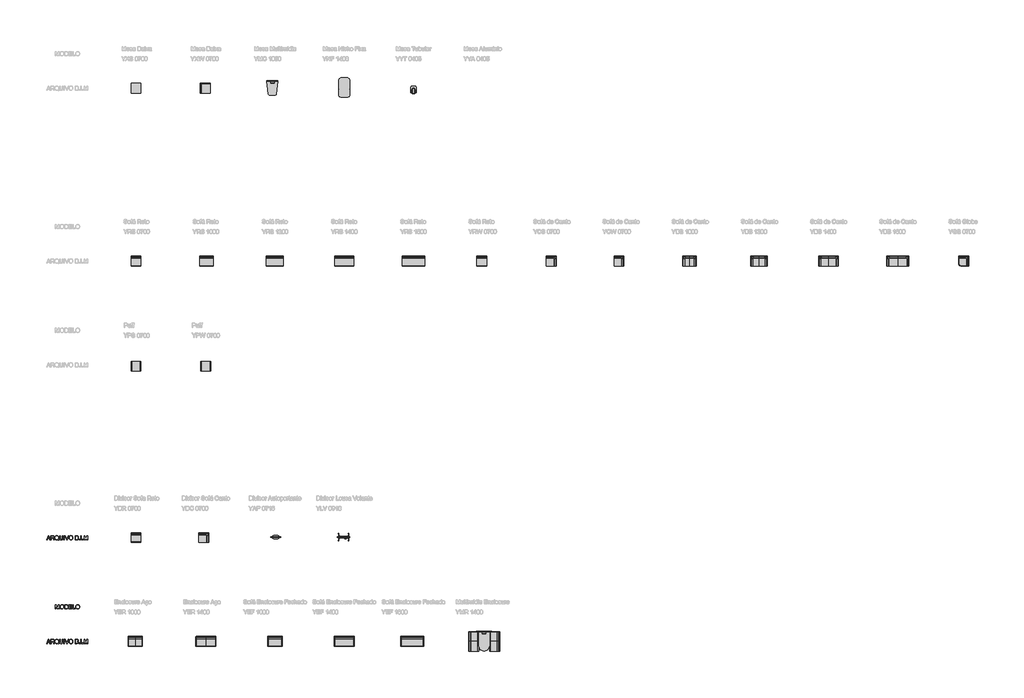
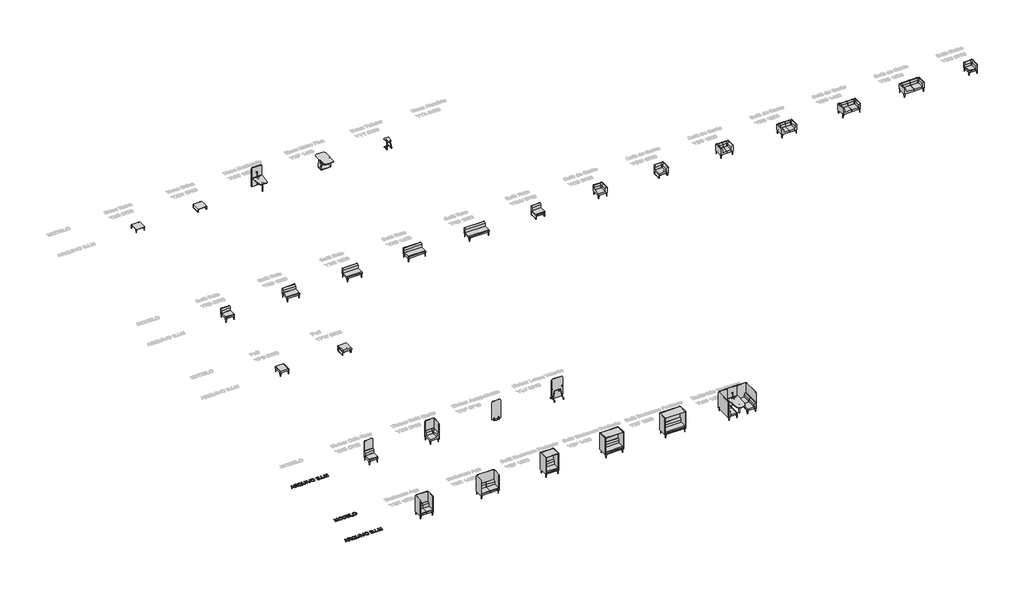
# One storey, part 1 of 26: 30 furniture elements, 3 proxies.
"""IFC4 building model written with IfcOpenShell, lengths in millimetres."""

from ifc_helpers import new_model, si_unit, origin, origin_with_axes, place, context, project, spatial, polyline, outline, extrude, transform, mapped, element, save
from components import furniture_fa825803, yap_0716_2c363669, ybs_1000_178b8325, ybs_1200_3b72d0d0, ybs_1400_8f39f51c, ybs_1600_b81034bc, ycs_0700_0be64c8a, ycw_0700_7a8f78d2, ydc_0700_d36201fb, ydr_0700_7234054d, yef_1000_8515219d, yef_1400_2cbca0d0, yef_1600_15b0d586, yer_1000_36a1c1a7, yer_1400_89e6360d, ygs_0700_92577f61, ylv_0918_f138dd49, ymr_1400_ceb6d955, ymr_1400_8e240abd, ynf_1408_52790276, yps_0700_d034030b, ypw_0700_b0204cda, yrs_0700_28fca33c, yrs_1000_8e3fc700, yrs_1200_bf4bd0c3, yrs_1400_05e61edc, yrs_1600_2b5b6c77, yrw_0700_b2f553f3, yxs_0700_424be534, yxw_0700_d7e07470, yyt_0405_1cd9c240

model = new_model("IFC4")

# Units and contexts
model_context = context("Model", 3, world=origin())
ifc_project = project(units=[si_unit("LENGTHUNIT", "METRE", prefix="MILLI")], contexts=[model_context])

# Site, building, storey
site = spatial("IfcSite", under=ifc_project)
building = spatial("IfcBuilding", under=site)
storey = spatial("IfcBuildingStorey", under=building, Name="Marelli - Linha YOUNG - Planta Baixa", Elevation=0.0)

# Proxies
placement = place(None, origin())
element("IfcBuildingElementProxy", 1, Name="300mm Arial", ObjectType="300mm Arial", at=placement, inside=storey, context=model_context, shape_type="SweptSolid", body=[
    extrude(outline(polyline([(-20609.419598, -22780.5663201), (-20489.1221856, -22479.1973896), (-20457.0428756, -22479.1973896), (-20336.7454632, -22780.5663201), (-20376.550295, -22780.5663201), (-20411.0576262, -22686.3885293), (-20535.1810114, -22686.3885293), (-20569.6147661, -22780.5663201), (-20609.419598, -22780.5663201)]), holes=[polyline([(-20521.3486483, -22648.717413), (-20424.8164128, -22648.717413), (-20451.9661041, -22574.6259792), (-20473.0825306, -22516.8685059), (-20491.8445123, -22568.1512561), (-20521.3486483, -22648.717413)])]), origin_with_axes(), (0.0, 0.0, 1.0), 10.0),
    extrude(outline(polyline([(-20296.4991729, -22780.5663201), (-20296.4991729, -22479.1973896), (-20166.6368286, -22479.1973896), (-20131.7340243, -22481.2299376), (-20106.3409696, -22487.3275817), (-20087.7813229, -22498.5847708), (-20073.3787428, -22516.0959537), (-20064.1357077, -22537.8101885), (-20061.054696, -22561.6765329), (-20066.1590587, -22591.3646099), (-20081.4721467, -22615.9759154), (-20093.0719259, -22626.0052983), (-20107.4538126, -22634.0205273), (-20144.5639089, -22644.0085235), (-20123.1531768, -22660.1217548), (-20092.6189712, -22698.8965171), (-20042.3662906, -22780.5663201), (-20086.144248, -22780.5663201), (-20125.3604687, -22718.0999573), (-20153.6873824, -22676.750021), (-20173.5897983, -22657.2154871), (-20191.5056515, -22650.0417882), (-20213.357842, -22648.717413), (-20258.8280566, -22648.717413), (-20258.8280566, -22780.5663201), (-20296.4991729, -22780.5663201)]), holes=[polyline([(-20258.8280566, -22611.0462967), (-20174.5095033, -22611.0462967), (-20150.293671, -22609.7127245), (-20131.5040981, -22605.7120078), (-20117.3590353, -22598.7774322), (-20107.0767336, -22588.6422832), (-20100.8135426, -22576.3826157), (-20098.7258123, -22563.0744845), (-20102.7081349, -22544.6987789), (-20114.6551027, -22529.8915286), (-20135.2105092, -22520.1242616), (-20165.0181478, -22516.8685059), (-20258.8280566, -22516.8685059), (-20258.8280566, -22611.0462967)])]), origin_with_axes(), (0.0, 0.0, 1.0), 10.0),
    extrude(outline(polyline([(-19768.7356626, -22744.4403081), (-19744.4002686, -22763.036743), (-19722.0146492, -22775.8574305), (-19732.1681923, -22803.4485802), (-19763.2358268, -22789.0460001), (-19794.1930967, -22768.205485), (-19829.0499157, -22781.0077785), (-19867.4016137, -22785.2752096), (-19905.9372527, -22780.3547879), (-19940.7572836, -22765.5935229), (-19969.9211287, -22741.9203165), (-19991.4882107, -22710.2640708), (-20004.814736, -22672.3630282), (-20009.2569111, -22629.9554312), (-20004.823933, -22587.511046), (-19991.5249989, -22549.0581805), (-19970.0406904, -22516.9512794), (-19941.0515892, -22493.5447874), (-19906.360317, -22479.2525719), (-19867.7694957, -22474.4885001), (-19828.8751718, -22479.3629365), (-19794.0091557, -22493.9862458), (-19765.0660397, -22517.3835407), (-19743.9404161, -22548.5799339), (-19731.0277581, -22585.9199564), (-19726.7235388, -22627.7481393), (-19729.3355009, -22662.5313819), (-19737.1713874, -22693.5990164), (-19750.2863806, -22720.9142546), (-19768.7356626, -22744.4403081)]), holes=[polyline([(-19857.0273415, -22694.3347804), (-19825.3527017, -22706.3093393), (-19799.784903, -22722.9559996), (-19784.3016695, -22705.4816049), (-19773.2422171, -22684.1076609), (-19766.6065456, -22658.8341679), (-19764.3946551, -22629.6611256), (-19767.521652, -22596.5057608), (-19776.9026429, -22567.8201623), (-19792.3077015, -22544.3308969), (-19813.5069014, -22526.7645316), (-19839.065503, -22515.8108452), (-19867.5487665, -22512.1596164), (-19889.033075, -22514.0059242), (-19908.6043972, -22519.5448474), (-19926.2627329, -22528.7763863), (-19942.0080823, -22541.7005406), (-19954.9483315, -22558.2897193), (-19964.1913666, -22578.5163313), (-19969.7371877, -22602.3803764), (-19971.5857948, -22629.8818548), (-19969.7578811, -22656.6659634), (-19964.2741401, -22680.1437324), (-19955.1345718, -22700.3151621), (-19942.3391761, -22717.1802523), (-19926.7018921, -22730.4906827), (-19909.0366585, -22739.998133), (-19889.3434755, -22745.7026032), (-19867.6223429, -22747.6040933), (-19846.7082515, -22745.6727128), (-19827.081747, -22739.8785714), (-19846.3771577, -22729.853787), (-19866.7394261, -22723.1767288), (-19857.0273415, -22694.3347804)])]), origin_with_axes(), (0.0, 0.0, 1.0), 10.0),
    extrude(outline(polyline([(-19472.4435037, -22479.1973896), (-19434.7723874, -22479.1973896), (-19434.7723874, -22653.0584205), (-19437.3291673, -22693.7737604), (-19444.9995069, -22725.1265034), (-19459.3285106, -22749.3147446), (-19481.8612828, -22768.5365788), (-19512.6530058, -22781.0905519), (-19551.7588619, -22785.2752096), (-19590.0093923, -22781.6331779), (-19620.5895832, -22770.7070826), (-19643.5086315, -22752.8740029), (-19658.7757343, -22728.5110178), (-19667.3565818, -22695.8338995), (-19670.2168643, -22653.0584205), (-19670.2168643, -22479.1973896), (-19632.545748, -22479.1973896), (-19632.545748, -22651.7340454), (-19630.6879439, -22685.588386), (-19625.1145317, -22709.1604248), (-19615.0161709, -22725.4851883), (-19599.5835212, -22737.597703), (-19579.4603761, -22745.1024957), (-19555.290529, -22747.6040933), (-19516.9756192, -22742.6560805), (-19502.6328199, -22736.4710644), (-19491.499791, -22727.812042), (-19483.1626653, -22715.6351479), (-19477.2075755, -22698.8965171), (-19472.4435037, -22651.7340454), (-19472.4435037, -22479.1973896)])), origin_with_axes(), (0.0, 0.0, 1.0), 10.0),
    extrude(outline(polyline([(-19364.1390443, -22780.5663201), (-19364.1390443, -22479.1973896), (-19326.467928, -22479.1973896), (-19326.467928, -22780.5663201), (-19364.1390443, -22780.5663201)])), origin_with_axes(), (0.0, 0.0, 1.0), 10.0),
    extrude(outline(polyline([(-19162.0982526, -22780.5663201), (-19282.027783, -22479.1973896), (-19241.7079163, -22479.1973896), (-19161.436065, -22696.3213432), (-19145.1756808, -22745.2496485), (-19129.1360258, -22696.3213432), (-19048.6434453, -22479.1973896), (-19008.3235786, -22479.1973896), (-19123.1763375, -22780.5663201), (-19162.0982526, -22780.5663201)])), origin_with_axes(), (0.0, 0.0, 1.0), 10.0),
    extrude(outline(polyline([(-18987.4278813, -22633.8549804), (-18984.9170866, -22598.5061192), (-18977.3847028, -22567.213157), (-18964.8307297, -22539.9760937), (-18947.2551674, -22516.7949295), (-18925.711078, -22498.2858666), (-18901.2515239, -22485.0651074), (-18873.8765049, -22477.1326519), (-18843.5860211, -22474.4885001), (-18804.0571008, -22479.454907), (-18768.6116705, -22494.3541278), (-18739.1811109, -22518.1376988), (-18717.6968024, -22549.7571563), (-18704.5634152, -22587.68579), (-18700.1856194, -22630.3968896), (-18704.7933414, -22673.6782064), (-18718.6165074, -22712.140269), (-18740.8917622, -22743.8149087), (-18770.8557507, -22766.733957), (-18805.9976783, -22780.6398965), (-18843.8067503, -22785.2752096), (-18883.942676, -22780.1524528), (-18919.5904413, -22764.7841825), (-18948.9474246, -22740.5591531), (-18970.2110039, -22708.8661192), (-18983.1236619, -22672.3998164), (-18987.4278813, -22633.8549804)]), holes=[polyline([(-18949.7567649, -22634.2228624), (-18947.873669, -22659.1974513), (-18942.2243811, -22681.3669401), (-18932.8089013, -22700.7313286), (-18919.6272295, -22717.2906169), (-18903.6036694, -22730.5527628), (-18885.6625243, -22740.0257242), (-18865.8037944, -22745.709501), (-18844.0274795, -22747.6040933), (-18821.8786842, -22745.6911069), (-18801.7854294, -22739.9521478), (-18783.7477154, -22730.3872159), (-18767.7655419, -22716.9963113), (-18754.6804392, -22700.0875351), (-18745.3339373, -22679.9689885), (-18739.7260361, -22656.6406715), (-18737.8567357, -22630.102584), (-18741.0573091, -22596.7540812), (-18750.6590292, -22567.9305269), (-18766.4135756, -22544.358488), (-18788.0726281, -22526.7645316), (-18814.2014468, -22515.8108452), (-18843.3652919, -22512.1596164), (-18864.3851494, -22513.9185522), (-18883.8874937, -22519.1953595), (-18901.8723248, -22527.9900385), (-18918.3396426, -22540.302589), (-18932.0846336, -22556.7262208), (-18941.9024844, -22577.8541437), (-18947.7931948, -22603.6863575), (-18949.7567649, -22634.2228624)])]), origin_with_axes(), (0.0, 0.0, 1.0), 10.0),
    extrude(outline(polyline([(-18530.665596, -22780.5663201), (-18530.665596, -22479.1973896), (-18415.6656844, -22479.1973896), (-18384.0370298, -22481.4138786), (-18359.3429509, -22488.0633457), (-18340.4154222, -22499.3113377), (-18326.0864185, -22515.3234015), (-18317.0641126, -22534.1589597), (-18314.0566773, -22553.8774346), (-18316.585866, -22572.0232141), (-18324.1734321, -22589.0837416), (-18336.874558, -22604.0105535), (-18354.7444259, -22615.7551862), (-18333.3980732, -22626.9020107), (-18317.6251326, -22643.8613707), (-18307.8854568, -22665.5112261), (-18304.6388982, -22690.7295368), (-18306.8553872, -22711.7447958), (-18313.5048543, -22731.2333445), (-18323.4284711, -22747.8064284), (-18335.4674094, -22760.0752929), (-18350.2102804, -22768.9596431), (-18368.2456952, -22775.3791839), (-18416.5486011, -22780.5663201), (-18530.665596, -22780.5663201)]), holes=[polyline([(-18492.9944797, -22601.6285176), (-18424.2005466, -22601.6285176), (-18384.0278328, -22598.3911561), (-18369.9655435, -22592.8085468), (-18359.8579857, -22584.4484284), (-18353.7603416, -22573.4395597), (-18351.7277936, -22559.9106994), (-18353.6223859, -22546.7773121), (-18359.3061627, -22535.3361821), (-18368.5216067, -22526.4058467), (-18381.0112004, -22520.8048433), (-18429.424471, -22516.8685059), (-18492.9944797, -22516.8685059), (-18492.9944797, -22601.6285176)]), polyline([(-18492.9944797, -22742.8952038), (-18415.7392607, -22742.8952038), (-18387.7802291, -22741.4236758), (-18364.1254168, -22733.2199073), (-18348.4536438, -22716.4812765), (-18343.8459218, -22704.6538704), (-18342.3100145, -22691.0974188), (-18344.1126363, -22675.3520694), (-18349.5205016, -22661.814012), (-18358.9658718, -22651.2282076), (-18372.8810083, -22644.3396173), (-18392.5902862, -22640.5596298), (-18419.4180807, -22639.2996339), (-18492.9944797, -22639.2996339), (-18492.9944797, -22742.8952038)])]), origin_with_axes(), (0.0, 0.0, 1.0), 10.0),
    extrude(outline(polyline([(-18248.1322237, -22780.5663201), (-18248.1322237, -22742.8952038), (-18210.4611074, -22742.8952038), (-18210.4611074, -22780.5663201), (-18248.1322237, -22780.5663201)])), origin_with_axes(), (0.0, 0.0, 1.0), 10.0),
    extrude(outline(polyline([(-18130.4099853, -22780.5663201), (-18130.4099853, -22479.1973896), (-18092.738869, -22479.1973896), (-18092.738869, -22780.5663201), (-18130.4099853, -22780.5663201)])), origin_with_axes(), (0.0, 0.0, 1.0), 10.0),
    extrude(outline(polyline([(-18012.6877468, -22780.5663201), (-18012.6877468, -22742.8952038), (-17975.0166305, -22742.8952038), (-17975.0166305, -22780.5663201), (-18012.6877468, -22780.5663201)])), origin_with_axes(), (0.0, 0.0, 1.0), 10.0),
    extrude(outline(polyline([(-17899.6743979, -22780.5663201), (-17899.6743979, -22479.1973896), (-17834.8535904, -22479.1973896), (-17773.196568, -22691.6124536), (-17760.7621565, -22735.9790223), (-17747.2976755, -22687.9336337), (-17686.6707227, -22479.1973896), (-17621.8499152, -22479.1973896), (-17621.8499152, -22780.5663201), (-17659.5210315, -22780.5663201), (-17659.5210315, -22516.8685059), (-17735.2311461, -22780.5663201), (-17786.293167, -22780.5663201), (-17862.0032816, -22516.8685059), (-17862.0032816, -22780.5663201), (-17899.6743979, -22780.5663201)])), origin_with_axes(), (0.0, 0.0, 1.0), 10.0),
])
element("IfcBuildingElementProxy", 2, Name="300mm Arial", ObjectType="300mm Arial", at=placement, inside=storey, context=model_context, shape_type="SweptSolid", body=[
    extrude(outline(polyline([(-20609.419598, -30280.5663201), (-20489.1221856, -29979.1973896), (-20457.0428756, -29979.1973896), (-20336.7454632, -30280.5663201), (-20376.550295, -30280.5663201), (-20411.0576262, -30186.3885293), (-20535.1810114, -30186.3885293), (-20569.6147661, -30280.5663201), (-20609.419598, -30280.5663201)]), holes=[polyline([(-20521.3486483, -30148.717413), (-20424.8164128, -30148.717413), (-20451.9661041, -30074.6259792), (-20473.0825306, -30016.8685059), (-20491.8445123, -30068.1512561), (-20521.3486483, -30148.717413)])]), origin_with_axes(), (0.0, 0.0, 1.0), 10.0),
    extrude(outline(polyline([(-20296.4991729, -30280.5663201), (-20296.4991729, -29979.1973896), (-20166.6368286, -29979.1973896), (-20131.7340243, -29981.2299376), (-20106.3409696, -29987.3275817), (-20087.7813229, -29998.5847708), (-20073.3787428, -30016.0959537), (-20064.1357077, -30037.8101885), (-20061.054696, -30061.6765329), (-20066.1590587, -30091.3646099), (-20081.4721467, -30115.9759154), (-20093.0719259, -30126.0052983), (-20107.4538126, -30134.0205273), (-20144.5639089, -30144.0085235), (-20123.1531768, -30160.1217548), (-20092.6189712, -30198.8965171), (-20042.3662906, -30280.5663201), (-20086.144248, -30280.5663201), (-20125.3604687, -30218.0999573), (-20153.6873824, -30176.750021), (-20173.5897983, -30157.2154871), (-20191.5056515, -30150.0417882), (-20213.357842, -30148.717413), (-20258.8280566, -30148.717413), (-20258.8280566, -30280.5663201), (-20296.4991729, -30280.5663201)]), holes=[polyline([(-20258.8280566, -30111.0462967), (-20174.5095033, -30111.0462967), (-20150.293671, -30109.7127245), (-20131.5040981, -30105.7120078), (-20117.3590353, -30098.7774322), (-20107.0767336, -30088.6422832), (-20100.8135426, -30076.3826157), (-20098.7258123, -30063.0744845), (-20102.7081349, -30044.6987789), (-20114.6551027, -30029.8915286), (-20135.2105092, -30020.1242616), (-20165.0181478, -30016.8685059), (-20258.8280566, -30016.8685059), (-20258.8280566, -30111.0462967)])]), origin_with_axes(), (0.0, 0.0, 1.0), 10.0),
    extrude(outline(polyline([(-19768.7356626, -30244.4403081), (-19744.4002686, -30263.036743), (-19722.0146492, -30275.8574305), (-19732.1681923, -30303.4485802), (-19763.2358268, -30289.0460001), (-19794.1930967, -30268.205485), (-19829.0499157, -30281.0077785), (-19867.4016137, -30285.2752096), (-19905.9372527, -30280.3547879), (-19940.7572836, -30265.5935229), (-19969.9211287, -30241.9203165), (-19991.4882107, -30210.2640708), (-20004.814736, -30172.3630282), (-20009.2569111, -30129.9554312), (-20004.823933, -30087.511046), (-19991.5249989, -30049.0581805), (-19970.0406904, -30016.9512794), (-19941.0515892, -29993.5447874), (-19906.360317, -29979.2525719), (-19867.7694957, -29974.4885001), (-19828.8751718, -29979.3629365), (-19794.0091557, -29993.9862458), (-19765.0660397, -30017.3835407), (-19743.9404161, -30048.5799339), (-19731.0277581, -30085.9199564), (-19726.7235388, -30127.7481393), (-19729.3355009, -30162.5313819), (-19737.1713874, -30193.5990164), (-19750.2863806, -30220.9142546), (-19768.7356626, -30244.4403081)]), holes=[polyline([(-19857.0273415, -30194.3347804), (-19825.3527017, -30206.3093393), (-19799.784903, -30222.9559996), (-19784.3016695, -30205.4816049), (-19773.2422171, -30184.1076609), (-19766.6065456, -30158.8341679), (-19764.3946551, -30129.6611256), (-19767.521652, -30096.5057608), (-19776.9026429, -30067.8201623), (-19792.3077015, -30044.3308969), (-19813.5069014, -30026.7645316), (-19839.065503, -30015.8108452), (-19867.5487665, -30012.1596164), (-19889.033075, -30014.0059242), (-19908.6043972, -30019.5448474), (-19926.2627329, -30028.7763863), (-19942.0080823, -30041.7005406), (-19954.9483315, -30058.2897193), (-19964.1913666, -30078.5163313), (-19969.7371877, -30102.3803764), (-19971.5857948, -30129.8818548), (-19969.7578811, -30156.6659634), (-19964.2741401, -30180.1437324), (-19955.1345718, -30200.3151621), (-19942.3391761, -30217.1802523), (-19926.7018921, -30230.4906827), (-19909.0366585, -30239.998133), (-19889.3434755, -30245.7026032), (-19867.6223429, -30247.6040933), (-19846.7082515, -30245.6727128), (-19827.081747, -30239.8785714), (-19846.3771577, -30229.853787), (-19866.7394261, -30223.1767288), (-19857.0273415, -30194.3347804)])]), origin_with_axes(), (0.0, 0.0, 1.0), 10.0),
    extrude(outline(polyline([(-19472.4435037, -29979.1973896), (-19434.7723874, -29979.1973896), (-19434.7723874, -30153.0584205), (-19437.3291673, -30193.7737604), (-19444.9995069, -30225.1265034), (-19459.3285106, -30249.3147446), (-19481.8612828, -30268.5365788), (-19512.6530058, -30281.0905519), (-19551.7588619, -30285.2752096), (-19590.0093923, -30281.6331779), (-19620.5895832, -30270.7070826), (-19643.5086315, -30252.8740029), (-19658.7757343, -30228.5110178), (-19667.3565818, -30195.8338995), (-19670.2168643, -30153.0584205), (-19670.2168643, -29979.1973896), (-19632.545748, -29979.1973896), (-19632.545748, -30151.7340454), (-19630.6879439, -30185.588386), (-19625.1145317, -30209.1604248), (-19615.0161709, -30225.4851883), (-19599.5835212, -30237.597703), (-19579.4603761, -30245.1024957), (-19555.290529, -30247.6040933), (-19516.9756192, -30242.6560805), (-19502.6328199, -30236.4710644), (-19491.499791, -30227.812042), (-19483.1626653, -30215.6351479), (-19477.2075755, -30198.8965171), (-19472.4435037, -30151.7340454), (-19472.4435037, -29979.1973896)])), origin_with_axes(), (0.0, 0.0, 1.0), 10.0),
    extrude(outline(polyline([(-19364.1390443, -30280.5663201), (-19364.1390443, -29979.1973896), (-19326.467928, -29979.1973896), (-19326.467928, -30280.5663201), (-19364.1390443, -30280.5663201)])), origin_with_axes(), (0.0, 0.0, 1.0), 10.0),
    extrude(outline(polyline([(-19162.0982526, -30280.5663201), (-19282.027783, -29979.1973896), (-19241.7079163, -29979.1973896), (-19161.436065, -30196.3213432), (-19145.1756808, -30245.2496485), (-19129.1360258, -30196.3213432), (-19048.6434453, -29979.1973896), (-19008.3235786, -29979.1973896), (-19123.1763375, -30280.5663201), (-19162.0982526, -30280.5663201)])), origin_with_axes(), (0.0, 0.0, 1.0), 10.0),
    extrude(outline(polyline([(-18987.4278813, -30133.8549804), (-18984.9170866, -30098.5061192), (-18977.3847028, -30067.213157), (-18964.8307297, -30039.9760937), (-18947.2551674, -30016.7949295), (-18925.711078, -29998.2858666), (-18901.2515239, -29985.0651074), (-18873.8765049, -29977.1326519), (-18843.5860211, -29974.4885001), (-18804.0571008, -29979.454907), (-18768.6116705, -29994.3541278), (-18739.1811109, -30018.1376988), (-18717.6968024, -30049.7571563), (-18704.5634152, -30087.68579), (-18700.1856194, -30130.3968896), (-18704.7933414, -30173.6782064), (-18718.6165074, -30212.140269), (-18740.8917622, -30243.8149087), (-18770.8557507, -30266.733957), (-18805.9976783, -30280.6398965), (-18843.8067503, -30285.2752096), (-18883.942676, -30280.1524528), (-18919.5904413, -30264.7841825), (-18948.9474246, -30240.5591531), (-18970.2110039, -30208.8661192), (-18983.1236619, -30172.3998164), (-18987.4278813, -30133.8549804)]), holes=[polyline([(-18949.7567649, -30134.2228624), (-18947.873669, -30159.1974513), (-18942.2243811, -30181.3669401), (-18932.8089013, -30200.7313286), (-18919.6272295, -30217.2906169), (-18903.6036694, -30230.5527628), (-18885.6625243, -30240.0257242), (-18865.8037944, -30245.709501), (-18844.0274795, -30247.6040933), (-18821.8786842, -30245.6911069), (-18801.7854294, -30239.9521478), (-18783.7477154, -30230.3872159), (-18767.7655419, -30216.9963113), (-18754.6804392, -30200.0875351), (-18745.3339373, -30179.9689885), (-18739.7260361, -30156.6406715), (-18737.8567357, -30130.102584), (-18741.0573091, -30096.7540812), (-18750.6590292, -30067.9305269), (-18766.4135756, -30044.358488), (-18788.0726281, -30026.7645316), (-18814.2014468, -30015.8108452), (-18843.3652919, -30012.1596164), (-18864.3851494, -30013.9185522), (-18883.8874937, -30019.1953595), (-18901.8723248, -30027.9900385), (-18918.3396426, -30040.302589), (-18932.0846336, -30056.7262208), (-18941.9024844, -30077.8541437), (-18947.7931948, -30103.6863575), (-18949.7567649, -30134.2228624)])]), origin_with_axes(), (0.0, 0.0, 1.0), 10.0),
    extrude(outline(polyline([(-18530.665596, -30280.5663201), (-18530.665596, -29979.1973896), (-18415.6656844, -29979.1973896), (-18384.0370298, -29981.4138786), (-18359.3429509, -29988.0633457), (-18340.4154222, -29999.3113377), (-18326.0864185, -30015.3234015), (-18317.0641126, -30034.1589597), (-18314.0566773, -30053.8774346), (-18316.585866, -30072.0232141), (-18324.1734321, -30089.0837416), (-18336.874558, -30104.0105535), (-18354.7444259, -30115.7551862), (-18333.3980732, -30126.9020107), (-18317.6251326, -30143.8613707), (-18307.8854568, -30165.5112261), (-18304.6388982, -30190.7295368), (-18306.8553872, -30211.7447958), (-18313.5048543, -30231.2333445), (-18323.4284711, -30247.8064284), (-18335.4674094, -30260.0752929), (-18350.2102804, -30268.9596431), (-18368.2456952, -30275.3791839), (-18416.5486011, -30280.5663201), (-18530.665596, -30280.5663201)]), holes=[polyline([(-18492.9944797, -30101.6285176), (-18424.2005466, -30101.6285176), (-18384.0278328, -30098.3911561), (-18369.9655435, -30092.8085468), (-18359.8579857, -30084.4484284), (-18353.7603416, -30073.4395597), (-18351.7277936, -30059.9106994), (-18353.6223859, -30046.7773121), (-18359.3061627, -30035.3361821), (-18368.5216067, -30026.4058467), (-18381.0112004, -30020.8048433), (-18429.424471, -30016.8685059), (-18492.9944797, -30016.8685059), (-18492.9944797, -30101.6285176)]), polyline([(-18492.9944797, -30242.8952038), (-18415.7392607, -30242.8952038), (-18387.7802291, -30241.4236758), (-18364.1254168, -30233.2199073), (-18348.4536438, -30216.4812765), (-18343.8459218, -30204.6538704), (-18342.3100145, -30191.0974188), (-18344.1126363, -30175.3520694), (-18349.5205016, -30161.814012), (-18358.9658718, -30151.2282076), (-18372.8810083, -30144.3396173), (-18392.5902862, -30140.5596298), (-18419.4180807, -30139.2996339), (-18492.9944797, -30139.2996339), (-18492.9944797, -30242.8952038)])]), origin_with_axes(), (0.0, 0.0, 1.0), 10.0),
    extrude(outline(polyline([(-18248.1322237, -30280.5663201), (-18248.1322237, -30242.8952038), (-18210.4611074, -30242.8952038), (-18210.4611074, -30280.5663201), (-18248.1322237, -30280.5663201)])), origin_with_axes(), (0.0, 0.0, 1.0), 10.0),
    extrude(outline(polyline([(-18130.4099853, -30280.5663201), (-18130.4099853, -29979.1973896), (-18092.738869, -29979.1973896), (-18092.738869, -30280.5663201), (-18130.4099853, -30280.5663201)])), origin_with_axes(), (0.0, 0.0, 1.0), 10.0),
    extrude(outline(polyline([(-18012.6877468, -30280.5663201), (-18012.6877468, -30242.8952038), (-17975.0166305, -30242.8952038), (-17975.0166305, -30280.5663201), (-18012.6877468, -30280.5663201)])), origin_with_axes(), (0.0, 0.0, 1.0), 10.0),
    extrude(outline(polyline([(-17899.6743979, -30280.5663201), (-17899.6743979, -29979.1973896), (-17834.8535904, -29979.1973896), (-17773.196568, -30191.6124536), (-17760.7621565, -30235.9790223), (-17747.2976755, -30187.9336337), (-17686.6707227, -29979.1973896), (-17621.8499152, -29979.1973896), (-17621.8499152, -30280.5663201), (-17659.5210315, -30280.5663201), (-17659.5210315, -30016.8685059), (-17735.2311461, -30280.5663201), (-17786.293167, -30280.5663201), (-17862.0032816, -30016.8685059), (-17862.0032816, -30280.5663201), (-17899.6743979, -30280.5663201)])), origin_with_axes(), (0.0, 0.0, 1.0), 10.0),
])
element("IfcBuildingElementProxy", 3, Name="300mm Arial", ObjectType="300mm Arial", at=placement, inside=storey, context=model_context, shape_type="SweptSolid", body=[
    extrude(outline(polyline([(-19966.8769052, -27780.5663201), (-19966.8769052, -27479.1973896), (-19902.0560977, -27479.1973896), (-19840.3990753, -27691.6124536), (-19827.9646638, -27735.9790223), (-19814.5001828, -27687.9336337), (-19753.87323, -27479.1973896), (-19689.0524225, -27479.1973896), (-19689.0524225, -27780.5663201), (-19726.7235388, -27780.5663201), (-19726.7235388, -27516.8685059), (-19802.4336534, -27780.5663201), (-19853.4956743, -27780.5663201), (-19929.2057889, -27516.8685059), (-19929.2057889, -27780.5663201), (-19966.8769052, -27780.5663201)])), origin_with_axes(), (0.0, 0.0, 1.0), 10.0),
    extrude(outline(polyline([(-19637.2546375, -27633.8549804), (-19634.7438429, -27598.5061192), (-19627.2114591, -27567.213157), (-19614.657486, -27539.9760937), (-19597.0819237, -27516.7949295), (-19575.5378343, -27498.2858666), (-19551.0782802, -27485.0651074), (-19523.7032612, -27477.1326519), (-19493.4127774, -27474.4885001), (-19453.883857, -27479.454907), (-19418.4384268, -27494.3541278), (-19389.0078672, -27518.1376988), (-19367.5235587, -27549.7571563), (-19354.3901714, -27587.68579), (-19350.0123757, -27630.3968896), (-19354.6200977, -27673.6782064), (-19368.4432637, -27712.140269), (-19390.7185185, -27743.8149087), (-19420.682507, -27766.733957), (-19455.8244346, -27780.6398965), (-19493.6335066, -27785.2752096), (-19533.7694323, -27780.1524528), (-19569.4171976, -27764.7841825), (-19598.7741808, -27740.5591531), (-19620.0377602, -27708.8661192), (-19632.9504182, -27672.3998164), (-19637.2546375, -27633.8549804)]), holes=[polyline([(-19599.5835212, -27634.2228624), (-19597.7004253, -27659.1974513), (-19592.0511374, -27681.3669401), (-19582.6356576, -27700.7313286), (-19569.4539858, -27717.2906169), (-19553.4304257, -27730.5527628), (-19535.4892806, -27740.0257242), (-19515.6305507, -27745.709501), (-19493.8542358, -27747.6040933), (-19471.7054404, -27745.6911069), (-19451.6121857, -27739.9521478), (-19433.5744716, -27730.3872159), (-19417.5922982, -27716.9963113), (-19404.5071955, -27700.0875351), (-19395.1606936, -27679.9689885), (-19389.5527924, -27656.6406715), (-19387.683492, -27630.102584), (-19390.8840654, -27596.7540812), (-19400.4857854, -27567.9305269), (-19416.2403319, -27544.358488), (-19437.8993843, -27526.7645316), (-19464.0282031, -27515.8108452), (-19493.1920482, -27512.1596164), (-19514.2119057, -27513.9185522), (-19533.71425, -27519.1953595), (-19551.699081, -27527.9900385), (-19568.1663988, -27540.302589), (-19581.9113899, -27556.7262208), (-19591.7292406, -27577.8541437), (-19597.6199511, -27603.6863575), (-19599.5835212, -27634.2228624)])]), origin_with_axes(), (0.0, 0.0, 1.0), 10.0),
    extrude(outline(polyline([(-19298.2145908, -27780.5663201), (-19298.2145908, -27479.1973896), (-19194.2511389, -27479.1973896), (-19140.4667912, -27483.5383972), (-19116.444097, -27491.9077126), (-19096.173799, -27505.0962821), (-19075.333284, -27528.0521186), (-19060.4892455, -27556.5997614), (-19051.6048953, -27590.1873876), (-19048.6434453, -27628.2631741), (-19050.6484021, -27660.6091985), (-19056.6632727, -27689.0740679), (-19065.8235344, -27713.3082943), (-19077.2646645, -27732.9623899), (-19090.4348399, -27748.477813), (-19104.7822377, -27760.2960221), (-19121.254154, -27769.0608107), (-19140.797885, -27775.4159721), (-19189.2479438, -27780.5663201), (-19298.2145908, -27780.5663201)]), holes=[polyline([(-19260.5434745, -27742.8952038), (-19193.8832569, -27742.8952038), (-19166.3105014, -27741.5340404), (-19145.39641, -27737.4505502), (-19129.6142724, -27730.8838566), (-19117.4373783, -27722.0730828), (-19104.3499764, -27705.7667134), (-19094.5183301, -27684.6594839), (-19088.3655037, -27658.6594239), (-19086.3145616, -27627.6745629), (-19090.3336724, -27586.6189322), (-19102.3910047, -27556.3054558), (-19120.2056904, -27535.4833349), (-19141.4968608, -27522.9017706), (-19163.1651104, -27518.3768221), (-19194.9133265, -27516.8685059), (-19260.5434745, -27516.8685059), (-19260.5434745, -27742.8952038)])]), origin_with_axes(), (0.0, 0.0, 1.0), 10.0),
    extrude(outline(polyline([(-18996.8456603, -27780.5663201), (-18996.8456603, -27479.1973896), (-18780.2367416, -27479.1973896), (-18780.2367416, -27516.8685059), (-18959.174544, -27516.8685059), (-18959.174544, -27606.3374072), (-18789.6545206, -27606.3374072), (-18789.6545206, -27644.0085235), (-18959.174544, -27644.0085235), (-18959.174544, -27742.8952038), (-18775.527852, -27742.8952038), (-18775.527852, -27780.5663201), (-18996.8456603, -27780.5663201)])), origin_with_axes(), (0.0, 0.0, 1.0), 10.0),
    extrude(outline(polyline([(-18719.0211776, -27780.5663201), (-18719.0211776, -27479.1973896), (-18681.3500613, -27479.1973896), (-18681.3500613, -27742.8952038), (-18530.665596, -27742.8952038), (-18530.665596, -27780.5663201), (-18719.0211776, -27780.5663201)])), origin_with_axes(), (0.0, 0.0, 1.0), 10.0),
    extrude(outline(polyline([(-18502.4122588, -27633.8549804), (-18499.9014642, -27598.5061192), (-18492.3690803, -27567.213157), (-18479.8151073, -27539.9760937), (-18462.2395449, -27516.7949295), (-18440.6954556, -27498.2858666), (-18416.2359014, -27485.0651074), (-18388.8608825, -27477.1326519), (-18358.5703987, -27474.4885001), (-18319.0414783, -27479.454907), (-18283.5960481, -27494.3541278), (-18254.1654885, -27518.1376988), (-18232.6811799, -27549.7571563), (-18219.5477927, -27587.68579), (-18215.169997, -27630.3968896), (-18219.777719, -27673.6782064), (-18233.6008849, -27712.140269), (-18255.8761397, -27743.8149087), (-18285.8401283, -27766.733957), (-18320.9820558, -27780.6398965), (-18358.7911279, -27785.2752096), (-18398.9270536, -27780.1524528), (-18434.5748189, -27764.7841825), (-18463.9318021, -27740.5591531), (-18485.1953814, -27708.8661192), (-18498.1080395, -27672.3998164), (-18502.4122588, -27633.8549804)]), holes=[polyline([(-18464.7411425, -27634.2228624), (-18462.8580465, -27659.1974513), (-18457.2087587, -27681.3669401), (-18447.7932788, -27700.7313286), (-18434.6116071, -27717.2906169), (-18418.5880469, -27730.5527628), (-18400.6469019, -27740.0257242), (-18380.7881719, -27745.709501), (-18359.0118571, -27747.6040933), (-18336.8630617, -27745.6911069), (-18316.769807, -27739.9521478), (-18298.7320929, -27730.3872159), (-18282.7499195, -27716.9963113), (-18269.6648168, -27700.0875351), (-18260.3183148, -27679.9689885), (-18254.7104137, -27656.6406715), (-18252.8411133, -27630.102584), (-18256.0416866, -27596.7540812), (-18265.6434067, -27567.9305269), (-18281.3979532, -27544.358488), (-18303.0570056, -27526.7645316), (-18329.1858243, -27515.8108452), (-18358.3496695, -27512.1596164), (-18379.369527, -27513.9185522), (-18398.8718713, -27519.1953595), (-18416.8567023, -27527.9900385), (-18433.3240201, -27540.302589), (-18447.0690112, -27556.7262208), (-18456.8868619, -27577.8541437), (-18462.7775724, -27603.6863575), (-18464.7411425, -27634.2228624)])]), origin_with_axes(), (0.0, 0.0, 1.0), 10.0),
])

# Furniture
furniture_shape = furniture_fa825803(model_context)
element("IfcFurniture", 4, ObjectType="Mobiliário_Mobiliário de Escritório_LinhaYoung_Mesa Multimídia Tampo e Painel para Cabine - YMC_Marelli : Mobiliário_Mobiliário de Escritório_LinhaYoung_Mesa Multimídia Tampo e Painel para Cabine - YMC_Marelli", at=placement, inside=storey, context=model_context, shape_type="MappedRepresentation", body=[
    mapped(furniture_shape, transform((-4698.0867854, 10419.4336799, 0.0), x_axis=(1.0, 0.0, 0.0), y_axis=(0.0, 1.0, 0.0), z_axis=(0.0, 0.0, 1.0))),
])
yap_0716_shape = yap_0716_2c363669(model_context)
element("IfcFurniture", 5, ObjectType="Mobiliário_Mobiliário de Escritório_LinhaYoung_Divisor Autoportante - YAP 0716_Marelli : YAP 0716", at=placement, inside=storey, context=model_context, shape_type="MappedRepresentation", body=[
    mapped(yap_0716_shape, transform((-4398.0867854, -22580.5663201, 0.0), x_axis=(1.0, 0.0, 0.0), y_axis=(0.0, 1.0, 0.0), z_axis=(0.0, 0.0, 1.0))),
])
ybs_1000_shape = ybs_1000_178b8325(model_context)
element("IfcFurniture", 6, ObjectType="Mobiliário_Mobiliário de Escritório_LinhaYoung_Sofa Braço (Aço) - YB_Marelli : YBS 1000", at=placement, inside=storey, context=model_context, shape_type="MappedRepresentation", body=[
    mapped(ybs_1000_shape, transform((25341.9132146, -2980.5663201, 0.0), x_axis=(1.0, 0.0, 0.0), y_axis=(0.0, 1.0, 0.0), z_axis=(0.0, 0.0, 1.0))),
])
ybs_1200_shape = ybs_1200_3b72d0d0(model_context)
element("IfcFurniture", 7, ObjectType="Mobiliário_Mobiliário de Escritório_LinhaYoung_Sofa Braço (Aço) - YB_Marelli : YBS 1200", at=placement, inside=storey, context=model_context, shape_type="MappedRepresentation", body=[
    mapped(ybs_1200_shape, transform((30261.9132146, -2980.5663201, 0.0), x_axis=(1.0, 0.0, 0.0), y_axis=(0.0, 1.0, 0.0), z_axis=(0.0, 0.0, 1.0))),
])
ybs_1400_shape = ybs_1400_8f39f51c(model_context)
element("IfcFurniture", 8, ObjectType="Mobiliário_Mobiliário de Escritório_LinhaYoung_Sofa Braço (Aço) - YB_Marelli : YBS 1400", at=placement, inside=storey, context=model_context, shape_type="MappedRepresentation", body=[
    mapped(ybs_1400_shape, transform((35181.9132146, -2980.5663201, 0.0), x_axis=(1.0, 0.0, 0.0), y_axis=(0.0, 1.0, 0.0), z_axis=(0.0, 0.0, 1.0))),
])
ybs_1600_shape = ybs_1600_b81034bc(model_context)
element("IfcFurniture", 9, ObjectType="Mobiliário_Mobiliário de Escritório_LinhaYoung_Sofa Braço (Aço) - YB_Marelli : YBS 1600", at=placement, inside=storey, context=model_context, shape_type="MappedRepresentation", body=[
    mapped(ybs_1600_shape, transform((40101.9132146, -2980.5663201, 0.0), x_axis=(1.0, 0.0, 0.0), y_axis=(0.0, 1.0, 0.0), z_axis=(0.0, 0.0, 1.0))),
])
ycs_0700_shape = ycs_0700_0be64c8a(model_context)
element("IfcFurniture", 10, ObjectType="Mobiliário_Mobiliário de Escritório_LinhaYoung_Sofa Canto (Aço) - YCS_Marelli : YCS 0700", at=placement, inside=storey, context=model_context, shape_type="MappedRepresentation", body=[
    mapped(ycs_0700_shape, transform((15501.9132146, -2980.5663201, 0.0), x_axis=(1.0, 0.0, 0.0), y_axis=(0.0, 1.0, 0.0), z_axis=(0.0, 0.0, 1.0))),
])
ycw_0700_shape = ycw_0700_7a8f78d2(model_context)
element("IfcFurniture", 11, ObjectType="Mobiliário_Mobiliário de Escritório_LinhaYoung_Sofa Canto (Aramado) - YCW_Marelli : YCW 0700", at=placement, inside=storey, context=model_context, shape_type="MappedRepresentation", body=[
    mapped(ycw_0700_shape, transform((20401.9132146, -2980.5663201, 0.0), x_axis=(1.0, 0.0, 0.0), y_axis=(0.0, 1.0, 0.0), z_axis=(0.0, 0.0, 1.0))),
])
ydc_0700_shape = ydc_0700_d36201fb(model_context)
element("IfcFurniture", 12, ObjectType="Mobiliário_Mobiliário de Escritório_LinhaYoung_Divisor Sofa Canto (Aço) - YDC_Marelli : YDC 0700", at=placement, inside=storey, context=model_context, shape_type="MappedRepresentation", body=[
    mapped(ydc_0700_shape, transform((-9598.0867854, -22980.5663201, 0.0), x_axis=(1.0, 0.0, 0.0), y_axis=(0.0, 1.0, 0.0), z_axis=(0.0, 0.0, 1.0))),
])
ydr_0700_shape = ydr_0700_7234054d(model_context)
element("IfcFurniture", 13, ObjectType="Mobiliário_Mobiliário de Escritório_LinhaYoung_Divisor Sofa Reto (Aço) - YDR_Marelli : YDR 0700", at=placement, inside=storey, context=model_context, shape_type="MappedRepresentation", body=[
    mapped(ydr_0700_shape, transform((-14498.0867854, -22980.5663201, 0.0), x_axis=(1.0, 0.0, 0.0), y_axis=(0.0, 1.0, 0.0), z_axis=(0.0, 0.0, 1.0))),
])
yef_1000_shape = yef_1000_8515219d(model_context)
element("IfcFurniture", 14, ObjectType="Mobiliário_Mobiliário de Escritório_LinhaYoung_Sofa Enclosure Fechado (Aço) - YEF_Marelli : YEF 1000", at=placement, inside=storey, context=model_context, shape_type="MappedRepresentation", body=[
    mapped(yef_1000_shape, transform((-4598.0867854, -30480.5663201, 0.0), x_axis=(1.0, 0.0, 0.0), y_axis=(0.0, 1.0, 0.0), z_axis=(0.0, 0.0, 1.0))),
])
yef_1400_shape = yef_1400_2cbca0d0(model_context)
element("IfcFurniture", 15, ObjectType="Mobiliário_Mobiliário de Escritório_LinhaYoung_Sofa Enclosure Fechado (Aço) - YEF_Marelli : YEF 1400", at=placement, inside=storey, context=model_context, shape_type="MappedRepresentation", body=[
    mapped(yef_1400_shape, transform((201.9132146, -30480.5663201, 0.0), x_axis=(1.0, 0.0, 0.0), y_axis=(0.0, 1.0, 0.0), z_axis=(0.0, 0.0, 1.0))),
])
yef_1600_shape = yef_1600_15b0d586(model_context)
element("IfcFurniture", 16, ObjectType="Mobiliário_Mobiliário de Escritório_LinhaYoung_Sofa Enclosure Fechado (Aço) - YEF_Marelli : YEF 1600", at=placement, inside=storey, context=model_context, shape_type="MappedRepresentation", body=[
    mapped(yef_1600_shape, transform((5001.9132146, -30480.5663201, 0.0), x_axis=(1.0, 0.0, 0.0), y_axis=(0.0, 1.0, 0.0), z_axis=(0.0, 0.0, 1.0))),
])
yer_1000_shape = yer_1000_36a1c1a7(model_context)
element("IfcFurniture", 17, ObjectType="Mobiliário_Mobiliário de Escritório_LinhaYoung_Enclosure (Aço) - YER_Marelli : YER 1000", at=placement, inside=storey, context=model_context, shape_type="MappedRepresentation", body=[
    mapped(yer_1000_shape, transform((-14698.0867854, -30480.5663201, 0.0), x_axis=(1.0, 0.0, 0.0), y_axis=(0.0, 1.0, 0.0), z_axis=(0.0, 0.0, 1.0))),
])
yer_1400_shape = yer_1400_89e6360d(model_context)
element("IfcFurniture", 18, ObjectType="Mobiliário_Mobiliário de Escritório_LinhaYoung_Enclosure (Aço) - YER_Marelli : YER 1400", at=placement, inside=storey, context=model_context, shape_type="MappedRepresentation", body=[
    mapped(yer_1400_shape, transform((-9798.0867854, -30480.5663201, 0.0), x_axis=(1.0, 0.0, 0.0), y_axis=(0.0, 1.0, 0.0), z_axis=(0.0, 0.0, 1.0))),
])
ygs_0700_shape = ygs_0700_92577f61(model_context)
element("IfcFurniture", 19, ObjectType="Mobiliário_Mobiliário de Escritório_LinhaYoung_Sofa Globe (Aço) - YGS_Marelli : YGS 0700", at=placement, inside=storey, context=model_context, shape_type="MappedRepresentation", body=[
    mapped(ygs_0700_shape, transform((45301.9132146, -2980.5663201, 0.0), x_axis=(1.0, 0.0, 0.0), y_axis=(0.0, 1.0, 0.0), z_axis=(0.0, 0.0, 1.0))),
])
ylv_0918_shape = ylv_0918_f138dd49(model_context)
element("IfcFurniture", 20, ObjectType="Mobiliário_Mobiliário de Escritório_LinhaYoung_Divisor Lousa Volante - YLV 0918_Marelli : YLV 0918", at=placement, inside=storey, context=model_context, shape_type="MappedRepresentation", body=[
    mapped(ylv_0918_shape, transform((401.9132146, -22580.5663201, 0.0), x_axis=(1.0, 0.0, 0.0), y_axis=(0.0, 1.0, 0.0), z_axis=(0.0, 0.0, 1.0))),
])
ymr_1400_shape = ymr_1400_ceb6d955(model_context)
ymr_1400_2_shape = ymr_1400_8e240abd(model_context)
element("IfcFurniture", 21, ObjectType="Mobiliário_Mobiliário de Escritório_LinhaYoung_Multimídia Enclosure - YMR_Marelli : YMR 1400", at=placement, inside=storey, context=model_context, shape_type="MappedRepresentation", body=[
    mapped(ymr_1400_shape, transform((10601.9132146, -29380.5663201, 0.0), x_axis=(1.0, 0.0, 0.0), y_axis=(0.0, 1.0, 0.0), z_axis=(0.0, 0.0, 1.0))),
    mapped(ymr_1400_2_shape, transform((10601.9132146, -29380.5663201, 0.0), x_axis=(1.0, 0.0, 0.0), y_axis=(0.0, 1.0, 0.0), z_axis=(0.0, 0.0, 1.0))),
])
ynf_1408_shape = ynf_1408_52790276(model_context)
element("IfcFurniture", 22, ObjectType="Mobiliário_Mobiliário de Escritório_LinhaYoung_Mesa de Nicho Fixa - YNF 1408_Marelli : YNF 1408", at=placement, inside=storey, context=model_context, shape_type="MappedRepresentation", body=[
    mapped(ynf_1408_shape, transform((501.9132146, 9219.4336799, 0.0), x_axis=(1.0, 0.0, 0.0), y_axis=(0.0, 1.0, 0.0), z_axis=(0.0, 0.0, 1.0))),
])
yps_0700_shape = yps_0700_d034030b(model_context)
element("IfcFurniture", 23, ObjectType="Mobiliário_Mobiliário de Escritório_LinhaYoung_Puff YPS 0700_Marelli : YPS 0700", at=placement, inside=storey, context=model_context, shape_type="MappedRepresentation", body=[
    mapped(yps_0700_shape, transform((-14498.0867854, -10580.5663201, 0.0), x_axis=(1.0, 0.0, 0.0), y_axis=(0.0, 1.0, 0.0), z_axis=(0.0, 0.0, 1.0))),
])
ypw_0700_shape = ypw_0700_b0204cda(model_context)
element("IfcFurniture", 24, ObjectType="Mobiliário_Mobiliário de Escritório_LinhaYoung_Puff YPW 0700_Marelli : YPW 0700", at=placement, inside=storey, context=model_context, shape_type="MappedRepresentation", body=[
    mapped(ypw_0700_shape, transform((-9458.0867854, -10580.5663201, 0.0), x_axis=(1.0, 0.0, 0.0), y_axis=(0.0, 1.0, 0.0), z_axis=(0.0, 0.0, 1.0))),
])
yrs_0700_shape = yrs_0700_28fca33c(model_context)
element("IfcFurniture", 25, ObjectType="Mobiliário_Mobiliário de Escritório_LinhaYoung_Sofa Reto (Aço) - YR_Marelli : YRS 0700", at=placement, inside=storey, context=model_context, shape_type="MappedRepresentation", body=[
    mapped(yrs_0700_shape, transform((-14498.0867854, -2980.5663201, 0.0), x_axis=(1.0, 0.0, 0.0), y_axis=(0.0, 1.0, 0.0), z_axis=(0.0, 0.0, 1.0))),
])
yrs_1000_shape = yrs_1000_8e3fc700(model_context)
element("IfcFurniture", 26, ObjectType="Mobiliário_Mobiliário de Escritório_LinhaYoung_Sofa Reto (Aço) - YR_Marelli : YRS 1000", at=placement, inside=storey, context=model_context, shape_type="MappedRepresentation", body=[
    mapped(yrs_1000_shape, transform((-9558.0867854, -2980.5663201, 0.0), x_axis=(1.0, 0.0, 0.0), y_axis=(0.0, 1.0, 0.0), z_axis=(0.0, 0.0, 1.0))),
])
yrs_1200_shape = yrs_1200_bf4bd0c3(model_context)
element("IfcFurniture", 27, ObjectType="Mobiliário_Mobiliário de Escritório_LinhaYoung_Sofa Reto (Aço) - YR_Marelli : YRS 1200", at=placement, inside=storey, context=model_context, shape_type="MappedRepresentation", body=[
    mapped(yrs_1200_shape, transform((-4718.0867854, -2980.5663201, 0.0), x_axis=(1.0, 0.0, 0.0), y_axis=(0.0, 1.0, 0.0), z_axis=(0.0, 0.0, 1.0))),
])
yrs_1400_shape = yrs_1400_05e61edc(model_context)
element("IfcFurniture", 28, ObjectType="Mobiliário_Mobiliário de Escritório_LinhaYoung_Sofa Reto (Aço) - YR_Marelli : YRS 1400", at=placement, inside=storey, context=model_context, shape_type="MappedRepresentation", body=[
    mapped(yrs_1400_shape, transform((201.9132146, -2980.5663201, 0.0), x_axis=(1.0, 0.0, 0.0), y_axis=(0.0, 1.0, 0.0), z_axis=(0.0, 0.0, 1.0))),
])
yrs_1600_shape = yrs_1600_2b5b6c77(model_context)
element("IfcFurniture", 29, ObjectType="Mobiliário_Mobiliário de Escritório_LinhaYoung_Sofa Reto (Aço) - YR_Marelli : YRS 1600", at=placement, inside=storey, context=model_context, shape_type="MappedRepresentation", body=[
    mapped(yrs_1600_shape, transform((5101.9132146, -2980.5663201, 0.0), x_axis=(1.0, 0.0, 0.0), y_axis=(0.0, 1.0, 0.0), z_axis=(0.0, 0.0, 1.0))),
])
yrw_0700_shape = yrw_0700_b2f553f3(model_context)
element("IfcFurniture", 30, ObjectType="Mobiliário_Mobiliário de Escritório_LinhaYoung_Sofa Reto (Aramado) - YR_Marelli : YRW 0700", at=placement, inside=storey, context=model_context, shape_type="MappedRepresentation", body=[
    mapped(yrw_0700_shape, transform((10481.9132146, -2980.5663201, 0.0), x_axis=(1.0, 0.0, 0.0), y_axis=(0.0, 1.0, 0.0), z_axis=(0.0, 0.0, 1.0))),
])
yxs_0700_shape = yxs_0700_424be534(model_context)
element("IfcFurniture", 31, ObjectType="Mobiliário_Mobiliário de Escritório_LinhaYoung_Mesa Baixa YXS 0700_Marelli : YXS 0700", at=placement, inside=storey, context=model_context, shape_type="MappedRepresentation", body=[
    mapped(yxs_0700_shape, transform((-14498.0867854, 9519.4336799, 0.0), x_axis=(1.0, 0.0, 0.0), y_axis=(0.0, 1.0, 0.0), z_axis=(0.0, 0.0, 1.0))),
])
yxw_0700_shape = yxw_0700_d7e07470(model_context)
element("IfcFurniture", 32, ObjectType="Mobiliário_Mobiliário de Escritório_LinhaYoung_Mesa Baixa YXW 0700_Marelli : YXW 0700", at=placement, inside=storey, context=model_context, shape_type="MappedRepresentation", body=[
    mapped(yxw_0700_shape, transform((-9498.0867854, 9519.4336799, 0.0), x_axis=(1.0, 0.0, 0.0), y_axis=(0.0, 1.0, 0.0), z_axis=(0.0, 0.0, 1.0))),
])
yyt_0405_shape = yyt_0405_1cd9c240(model_context)
element("IfcFurniture", 33, ObjectType="Mobiliário_Mobiliário de Escritório_LinhaYoung_Mesa Yes Tubular - YYT 0405_Marelli : YYT 0405", at=placement, inside=storey, context=model_context, shape_type="MappedRepresentation", body=[
    mapped(yyt_0405_shape, transform((5701.9132146, 9519.4336799, 0.0), x_axis=(1.0, 0.0, 0.0), y_axis=(0.0, 1.0, 0.0), z_axis=(0.0, 0.0, 1.0))),
])

save(model, "model.ifc")
